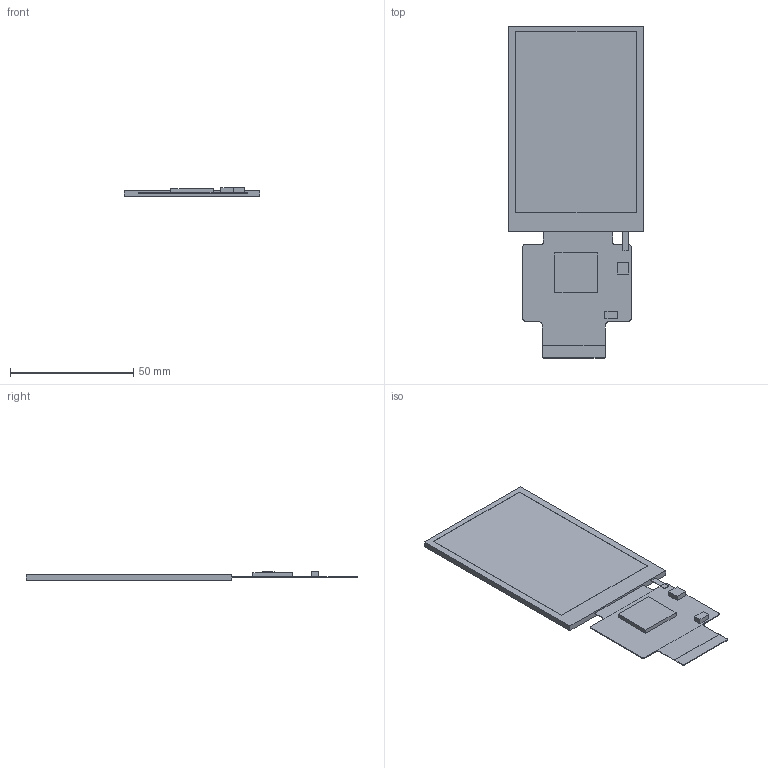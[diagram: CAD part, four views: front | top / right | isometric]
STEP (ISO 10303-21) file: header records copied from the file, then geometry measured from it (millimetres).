
FILE_DESCRIPTION (( 'STEP AP214' ), '1' );
FILE_NAME ('3D-DMG48320F035-01WN-231018.STEP', '2023-10-18T05:28:11', ( '' ), ( 'Microsoft' ), 'SwSTEP 2.0', 'SolidWorks 2017', '' );
FILE_SCHEMA (( 'AUTOMOTIVE_DESIGN' ));
Length unit declared in the file: millimetre
Products named in the file (1): 3D-DMG48320F035-01WN-231018
Bounding box: 54.9 x 134.67 x 3.55 mm (x, y, z)
Volume: 11511.7 mm3; surface area: 13890 mm2
Topology: 1 solids, 1 shells, 60 faces, 160 edges, 106 vertices
Faces by surface type: plane 48, cylinder 12
Entity records: 2200 total; most frequent: CARTESIAN_POINT 593, ORIENTED_EDGE 320, DIRECTION 256, EDGE_CURVE 160, LINE 132, VECTOR 132, VERTEX_POINT 106, EDGE_LOOP 66
